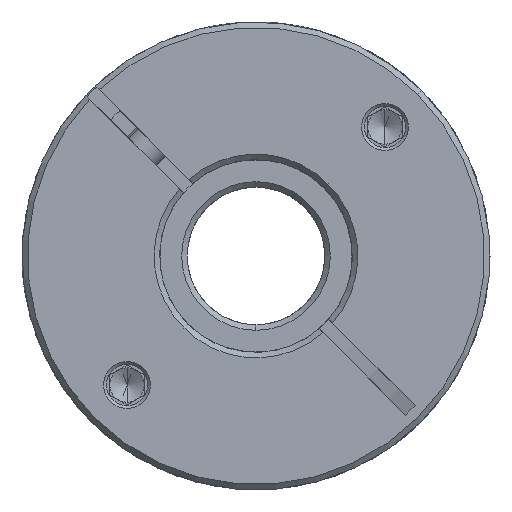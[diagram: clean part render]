
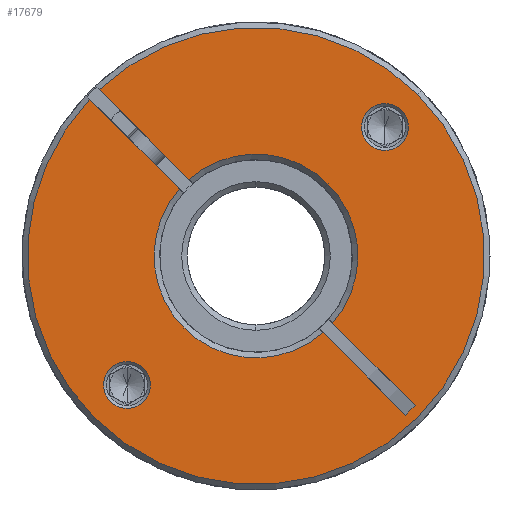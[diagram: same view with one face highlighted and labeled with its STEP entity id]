
A CAD part, front view. The second image highlights one B-rep face of the part: STEP entity #17679.
In plain terms, the highlighted planar face has unit normal (0, -1, 0).
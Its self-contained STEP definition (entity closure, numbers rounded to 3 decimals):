
#187 = EDGE_CURVE ( 'NONE', #17367, #11819, #20183, .T. ) ;
#192 = AXIS2_PLACEMENT_3D ( 'NONE', #2327, #15433, #17058 ) ;
#325 = CARTESIAN_POINT ( 'NONE',  ( -2.735, -67.045, 68. ) ) ;
#418 = EDGE_CURVE ( 'NONE', #7684, #11489, #5061, .T. ) ;
#426 = ORIENTED_EDGE ( 'NONE', *, *, #18195, .T. ) ;
#458 = VERTEX_POINT ( 'NONE', #2884 ) ;
#688 = CARTESIAN_POINT ( 'NONE',  ( 16.003, -67.045, 86.738 ) ) ;
#694 = EDGE_LOOP ( 'NONE', ( #6247, #13260 ) ) ;
#975 = CARTESIAN_POINT ( 'NONE',  ( 13.599, -67.045, 84.334 ) ) ;
#1005 = CARTESIAN_POINT ( 'NONE',  ( -23.878, -67.045, 46.858 ) ) ;
#1142 = EDGE_CURVE ( 'NONE', #11203, #16147, #9173, .T. ) ;
#1799 = ORIENTED_EDGE ( 'NONE', *, *, #19351, .T. ) ;
#1811 = DIRECTION ( 'NONE',  ( 0., 1., 0. ) ) ;
#2311 = CARTESIAN_POINT ( 'NONE',  ( -21.473, -67.045, 49.262 ) ) ;
#2327 = CARTESIAN_POINT ( 'NONE',  ( -2.735, -67.045, 68. ) ) ;
#2368 = DIRECTION ( 'NONE',  ( 0., 1., 0. ) ) ;
#2417 = EDGE_CURVE ( 'NONE', #16147, #10802, #9842, .T. ) ;
#2884 = CARTESIAN_POINT ( 'NONE',  ( 18.988, -67.045, 44.862 ) ) ;
#3066 = LINE ( 'NONE', #15818, #20482 ) ;
#3070 = DIRECTION ( 'NONE',  ( 0., -1., 0. ) ) ;
#3149 = CARTESIAN_POINT ( 'NONE',  ( -2.735, -67.045, 68. ) ) ;
#3203 = AXIS2_PLACEMENT_3D ( 'NONE', #9653, #18122, #6586 ) ;
#3305 = ORIENTED_EDGE ( 'NONE', *, *, #187, .T. ) ;
#3462 = AXIS2_PLACEMENT_3D ( 'NONE', #325, #20107, #8398 ) ;
#3796 = AXIS2_PLACEMENT_3D ( 'NONE', #3149, #6327, #14815 ) ;
#3832 = VERTEX_POINT ( 'NONE', #8820 ) ;
#3914 = AXIS2_PLACEMENT_3D ( 'NONE', #688, #2368, #13866 ) ;
#4001 = CIRCLE ( 'NONE', #3203, 14.8 ) ;
#4777 = AXIS2_PLACEMENT_3D ( 'NONE', #12363, #8828, #18964 ) ;
#4818 = CARTESIAN_POINT ( 'NONE',  ( -12.469, -67.045, 79.148 ) ) ;
#5061 = CIRCLE ( 'NONE', #3914, 3.4 ) ;
#5283 = ORIENTED_EDGE ( 'NONE', *, *, #8802, .F. ) ;
#5435 = ORIENTED_EDGE ( 'NONE', *, *, #19838, .T. ) ;
#5662 = DIRECTION ( 'NONE',  ( 0.707, 0., -0.707 ) ) ;
#5665 = AXIS2_PLACEMENT_3D ( 'NONE', #2311, #16959, #13805 ) ;
#5906 = CARTESIAN_POINT ( 'NONE',  ( -2.028, -67.045, 68.707 ) ) ;
#6082 = CARTESIAN_POINT ( 'NONE',  ( 7.73, -67.045, 78.465 ) ) ;
#6247 = ORIENTED_EDGE ( 'NONE', *, *, #418, .T. ) ;
#6327 = DIRECTION ( 'NONE',  ( 0., 1., 0. ) ) ;
#6394 = ORIENTED_EDGE ( 'NONE', *, *, #2417, .T. ) ;
#6477 = PLANE ( 'NONE',  #10343 ) ;
#6586 = DIRECTION ( 'NONE',  ( 0.707, 0., 0.707 ) ) ;
#6653 = DIRECTION ( 'NONE',  ( 0., 1., 0. ) ) ;
#6914 = CARTESIAN_POINT ( 'NONE',  ( -26.908, -67.045, 90.758 ) ) ;
#7400 = ORIENTED_EDGE ( 'NONE', *, *, #13691, .T. ) ;
#7684 = VERTEX_POINT ( 'NONE', #15992 ) ;
#7985 = LINE ( 'NONE', #18584, #9570 ) ;
#8136 = CIRCLE ( 'NONE', #3462, 33.2 ) ;
#8276 = DIRECTION ( 'NONE',  ( 0.707, 0., 0.707 ) ) ;
#8339 = EDGE_CURVE ( 'NONE', #11489, #7684, #18238, .T. ) ;
#8398 = DIRECTION ( 'NONE',  ( 0.707, 0., 0.707 ) ) ;
#8419 = VECTOR ( 'NONE', #11631, 1000. ) ;
#8455 = DIRECTION ( 'NONE',  ( 0.707, 0., 0.707 ) ) ;
#8495 = DIRECTION ( 'NONE',  ( 0.707, 0., -0.707 ) ) ;
#8802 = EDGE_CURVE ( 'NONE', #13216, #13510, #7985, .T. ) ;
#8820 = CARTESIAN_POINT ( 'NONE',  ( 6.999, -67.045, 56.852 ) ) ;
#8828 = DIRECTION ( 'NONE',  ( 0., 1., 0. ) ) ;
#8852 = CIRCLE ( 'NONE', #4777, 14.8 ) ;
#9103 = CARTESIAN_POINT ( 'NONE',  ( 8.413, -67.045, 58.266 ) ) ;
#9173 = CIRCLE ( 'NONE', #18969, 33.2 ) ;
#9193 = AXIS2_PLACEMENT_3D ( 'NONE', #9830, #1811, #8276 ) ;
#9570 = VECTOR ( 'NONE', #16960, 1000. ) ;
#9653 = CARTESIAN_POINT ( 'NONE',  ( -2.735, -67.045, 68. ) ) ;
#9747 = DIRECTION ( 'NONE',  ( 0.707, 0., 0.707 ) ) ;
#9830 = CARTESIAN_POINT ( 'NONE',  ( -21.473, -67.045, 49.262 ) ) ;
#9842 = CIRCLE ( 'NONE', #192, 33.2 ) ;
#10002 = LINE ( 'NONE', #15054, #8419 ) ;
#10343 = AXIS2_PLACEMENT_3D ( 'NONE', #11694, #19759, #9747 ) ;
#10454 = CARTESIAN_POINT ( 'NONE',  ( -26.211, -67.045, 44.524 ) ) ;
#10487 = ORIENTED_EDGE ( 'NONE', *, *, #21480, .T. ) ;
#10527 = DIRECTION ( 'NONE',  ( 0.707, 0., -0.707 ) ) ;
#10802 = VERTEX_POINT ( 'NONE', #14050 ) ;
#11203 = VERTEX_POINT ( 'NONE', #10454 ) ;
#11260 = EDGE_CURVE ( 'NONE', #10802, #12602, #11274, .T. ) ;
#11274 = LINE ( 'NONE', #5906, #14654 ) ;
#11489 = VERTEX_POINT ( 'NONE', #975 ) ;
#11631 = DIRECTION ( 'NONE',  ( -0.707, 0., -0.707 ) ) ;
#11694 = CARTESIAN_POINT ( 'NONE',  ( -2.735, -67.045, 68. ) ) ;
#11819 = VERTEX_POINT ( 'NONE', #13831 ) ;
#12058 = VERTEX_POINT ( 'NONE', #6082 ) ;
#12143 = FACE_OUTER_BOUND ( 'NONE', #16788, .T. ) ;
#12363 = CARTESIAN_POINT ( 'NONE',  ( -2.735, -67.045, 68. ) ) ;
#12602 = VERTEX_POINT ( 'NONE', #4818 ) ;
#12948 = FACE_BOUND ( 'NONE', #14633, .T. ) ;
#13216 = VERTEX_POINT ( 'NONE', #6914 ) ;
#13260 = ORIENTED_EDGE ( 'NONE', *, *, #8339, .T. ) ;
#13336 = VERTEX_POINT ( 'NONE', #9103 ) ;
#13510 = VERTEX_POINT ( 'NONE', #14398 ) ;
#13691 = EDGE_CURVE ( 'NONE', #13336, #18675, #21118, .T. ) ;
#13805 = DIRECTION ( 'NONE',  ( 0.707, 0., 0.707 ) ) ;
#13831 = CARTESIAN_POINT ( 'NONE',  ( -19.069, -67.045, 51.666 ) ) ;
#13866 = DIRECTION ( 'NONE',  ( 0.707, 0., 0.707 ) ) ;
#14050 = CARTESIAN_POINT ( 'NONE',  ( -25.493, -67.045, 92.172 ) ) ;
#14207 = CARTESIAN_POINT ( 'NONE',  ( 20.402, -67.045, 46.277 ) ) ;
#14398 = CARTESIAN_POINT ( 'NONE',  ( -13.883, -67.045, 77.734 ) ) ;
#14633 = EDGE_LOOP ( 'NONE', ( #17901, #3305 ) ) ;
#14654 = VECTOR ( 'NONE', #10527, 1000. ) ;
#14800 = DIRECTION ( 'NONE',  ( 0.707, 0., 0.707 ) ) ;
#14815 = DIRECTION ( 'NONE',  ( 0.707, 0., 0.707 ) ) ;
#15007 = ORIENTED_EDGE ( 'NONE', *, *, #11260, .T. ) ;
#15054 = CARTESIAN_POINT ( 'NONE',  ( 18.988, -67.045, 44.862 ) ) ;
#15433 = DIRECTION ( 'NONE',  ( 0., -1., 0. ) ) ;
#15620 = EDGE_CURVE ( 'NONE', #12058, #13336, #8852, .T. ) ;
#15818 = CARTESIAN_POINT ( 'NONE',  ( -3.442, -67.045, 67.293 ) ) ;
#15992 = CARTESIAN_POINT ( 'NONE',  ( 18.407, -67.045, 89.142 ) ) ;
#16114 = ORIENTED_EDGE ( 'NONE', *, *, #18512, .F. ) ;
#16147 = VERTEX_POINT ( 'NONE', #20410 ) ;
#16625 = CARTESIAN_POINT ( 'NONE',  ( 16.003, -67.045, 86.738 ) ) ;
#16686 = ORIENTED_EDGE ( 'NONE', *, *, #15620, .T. ) ;
#16788 = EDGE_LOOP ( 'NONE', ( #5283, #5435, #16993, #6394, #15007, #426, #16686, #7400, #1799, #16114, #10487 ) ) ;
#16959 = DIRECTION ( 'NONE',  ( 0., 1., 0. ) ) ;
#16960 = DIRECTION ( 'NONE',  ( 0.707, 0., -0.707 ) ) ;
#16993 = ORIENTED_EDGE ( 'NONE', *, *, #1142, .T. ) ;
#17058 = DIRECTION ( 'NONE',  ( 0.707, 0., 0.707 ) ) ;
#17367 = VERTEX_POINT ( 'NONE', #1005 ) ;
#17431 = AXIS2_PLACEMENT_3D ( 'NONE', #16625, #6653, #8455 ) ;
#17679 = ADVANCED_FACE ( 'NONE', ( #19222, #12948, #12143 ), #6477, .T. ) ;
#17901 = ORIENTED_EDGE ( 'NONE', *, *, #19466, .T. ) ;
#18122 = DIRECTION ( 'NONE',  ( 0., 1., 0. ) ) ;
#18184 = CARTESIAN_POINT ( 'NONE',  ( -2.735, -67.045, 68. ) ) ;
#18195 = EDGE_CURVE ( 'NONE', #12602, #12058, #21524, .T. ) ;
#18238 = CIRCLE ( 'NONE', #17431, 3.4 ) ;
#18360 = CIRCLE ( 'NONE', #5665, 3.4 ) ;
#18431 = CARTESIAN_POINT ( 'NONE',  ( -2.028, -67.045, 68.707 ) ) ;
#18512 = EDGE_CURVE ( 'NONE', #3832, #458, #3066, .T. ) ;
#18584 = CARTESIAN_POINT ( 'NONE',  ( -3.442, -67.045, 67.293 ) ) ;
#18675 = VERTEX_POINT ( 'NONE', #14207 ) ;
#18964 = DIRECTION ( 'NONE',  ( 0.707, 0., 0.707 ) ) ;
#18969 = AXIS2_PLACEMENT_3D ( 'NONE', #18184, #3070, #14800 ) ;
#19019 = VECTOR ( 'NONE', #8495, 1000. ) ;
#19222 = FACE_BOUND ( 'NONE', #694, .T. ) ;
#19351 = EDGE_CURVE ( 'NONE', #18675, #458, #10002, .T. ) ;
#19466 = EDGE_CURVE ( 'NONE', #11819, #17367, #18360, .T. ) ;
#19759 = DIRECTION ( 'NONE',  ( 0., -1., 0. ) ) ;
#19838 = EDGE_CURVE ( 'NONE', #13216, #11203, #8136, .T. ) ;
#20107 = DIRECTION ( 'NONE',  ( 0., -1., 0. ) ) ;
#20183 = CIRCLE ( 'NONE', #9193, 3.4 ) ;
#20410 = CARTESIAN_POINT ( 'NONE',  ( 20.741, -67.045, 91.476 ) ) ;
#20482 = VECTOR ( 'NONE', #5662, 1000. ) ;
#21118 = LINE ( 'NONE', #18431, #19019 ) ;
#21480 = EDGE_CURVE ( 'NONE', #3832, #13510, #4001, .T. ) ;
#21524 = CIRCLE ( 'NONE', #3796, 14.8 ) ;
